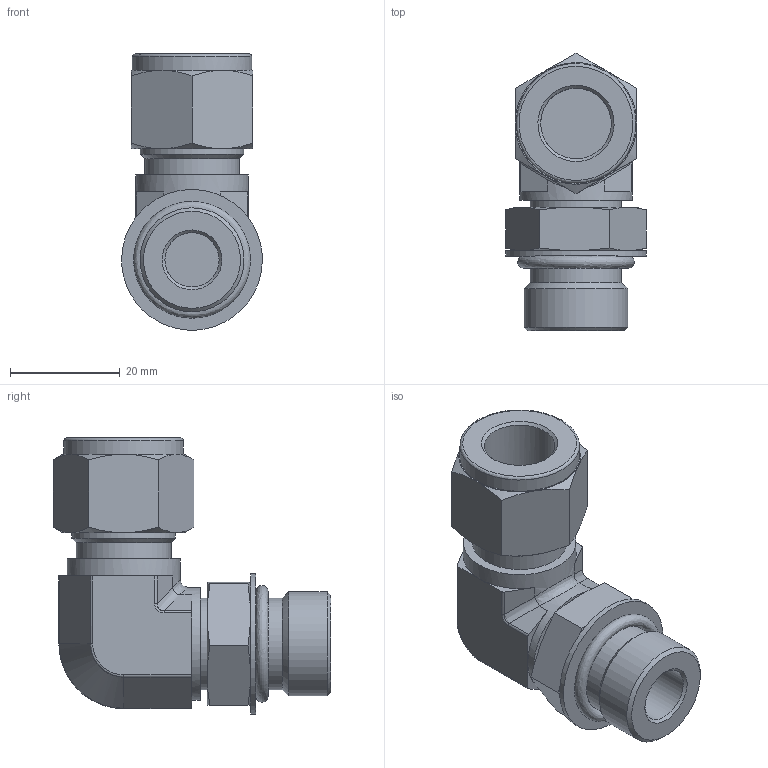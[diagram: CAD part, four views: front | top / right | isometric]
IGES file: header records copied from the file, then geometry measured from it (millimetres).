
Global section: file name: SPME-8-8U; native system: Autodesk Inventor 2016; preprocessor: unknown; author: DESIGNPC2; date: 20160115.111444; units: millimetre
Bounding box: 25.7 x 50.63 x 50.43 mm (x, y, z)
Volume: 22033.4 mm3; surface area: 10195.8 mm2
Topology: 4 solids, 4 shells, 127 faces, 313 edges, 202 vertices
Faces by surface type: bspline 127
